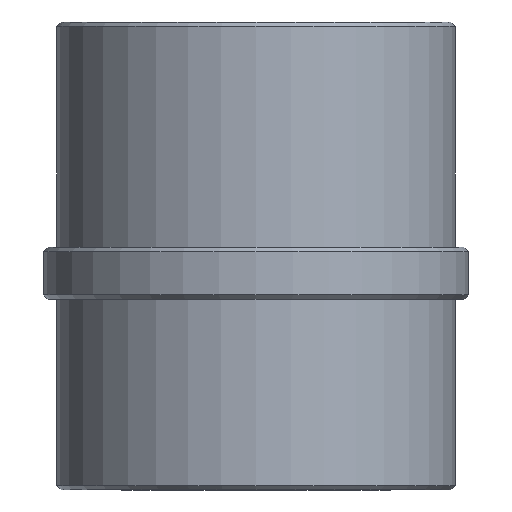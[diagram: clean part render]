
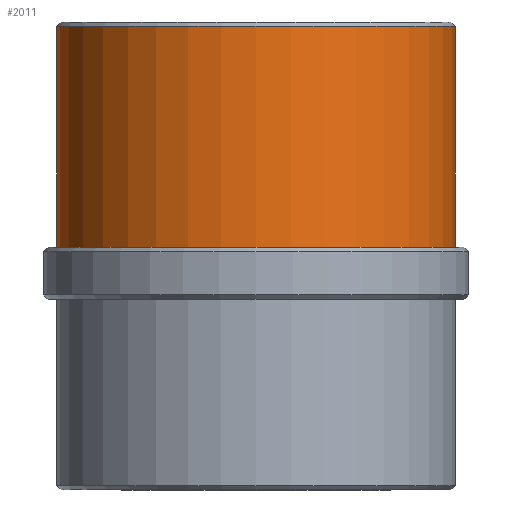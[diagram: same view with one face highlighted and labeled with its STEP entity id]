
A CAD part, front view. The second image highlights one B-rep face of the part: STEP entity #2011.
In plain terms, the highlighted cylindrical face has radius 23 mm (diameter 46 mm), a partial arc.
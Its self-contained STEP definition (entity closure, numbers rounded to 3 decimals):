
#998=CARTESIAN_POINT('',(0.,0.,31.5));
#999=DIRECTION('',(0.,0.,-1.));
#1000=DIRECTION('',(1.,0.,0.));
#1001=AXIS2_PLACEMENT_3D('',#998,#999,#1000);
#1003=DIRECTION('',(0.,0.,-1.));
#1004=VECTOR('',#1003,25.5);
#1005=CARTESIAN_POINT('',(23.,0.,
31.5));
#1006=LINE('',#1005,#1004);
#1007=DIRECTION('',(0.,0.,-1.));
#1008=VECTOR('',#1007,25.5);
#1009=CARTESIAN_POINT('',(-23.,0.,
31.5));
#1010=LINE('',#1009,#1008);
#1020=CARTESIAN_POINT('',(0.,0.,6.));
#1021=DIRECTION('',(0.,0.,-1.));
#1022=DIRECTION('',(1.,0.,0.));
#1023=AXIS2_PLACEMENT_3D('',#1020,#1021,#1022);
#1230=CARTESIAN_POINT('',(23.,0.,6.));
#1231=CARTESIAN_POINT('',(-23.,0.,6.));
#1232=VERTEX_POINT('',#1230);
#1233=VERTEX_POINT('',#1231);
#1266=CARTESIAN_POINT('',(23.,0.,31.5));
#1267=CARTESIAN_POINT('',(-23.,0.,31.5));
#1268=VERTEX_POINT('',#1266);
#1269=VERTEX_POINT('',#1267);
#1997=CARTESIAN_POINT('',(0.,0.,-24.7));
#1998=DIRECTION('',(0.,0.,1.));
#1999=DIRECTION('',(-1.,0.,0.));
#2000=AXIS2_PLACEMENT_3D('',#1997,#1998,#1999);
#2001=CYLINDRICAL_SURFACE('',#2000,23.);
#2002=ORIENTED_EDGE('',*,*,#1987,.F.);
#2004=ORIENTED_EDGE('',*,*,#2003,.T.);
#2006=ORIENTED_EDGE('',*,*,#2005,.T.);
#2008=ORIENTED_EDGE('',*,*,#2007,.F.);
#2009=EDGE_LOOP('',(#2002,#2004,#2006,#2008));
#2010=FACE_OUTER_BOUND('',#2009,.F.);
#2011=ADVANCED_FACE('',(#2010),#2001,.T.);
#1002=CIRCLE('',#1001,23.);
#1024=CIRCLE('',#1023,23.);
#1987=EDGE_CURVE('',#1268,#1269,#1002,.T.);
#2003=EDGE_CURVE('',#1268,#1232,#1006,.T.);
#2005=EDGE_CURVE('',#1232,#1233,#1024,.T.);
#2007=EDGE_CURVE('',#1269,#1233,#1010,.T.);
